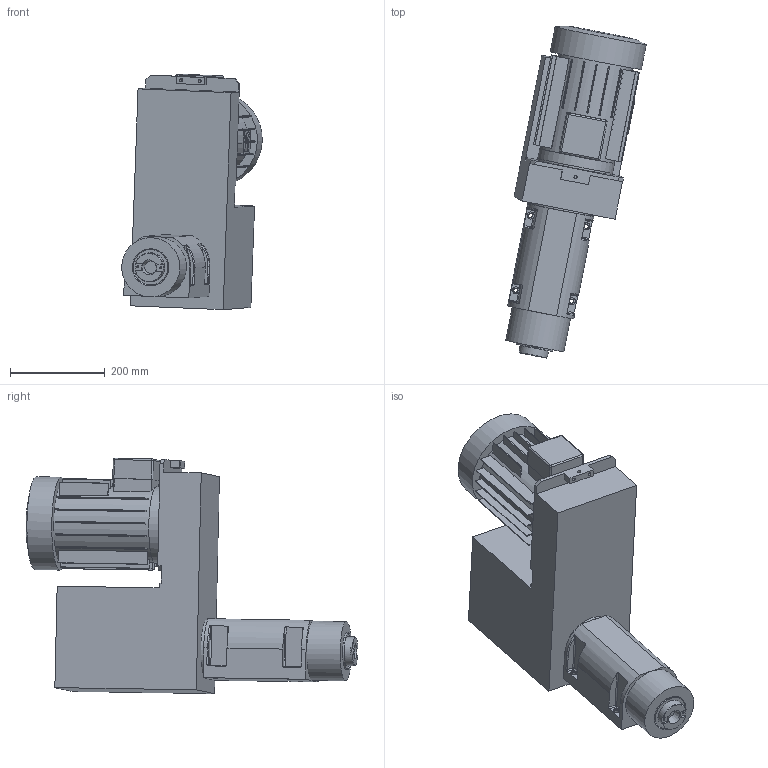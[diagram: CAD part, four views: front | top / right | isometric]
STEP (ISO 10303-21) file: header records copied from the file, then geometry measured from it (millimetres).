
FILE_DESCRIPTION((''),'2;1');
FILE_NAME('C:\VaultWork\Zeichnungen\Maßblätter\BF3b\BF00888-0 Maßblatt BF3b-SK30 Werkzeugspanner pneumatisch.stp','2009-04-06T08:47:23',('Test'),(''),'Autodesk Inventor 2008','Autodesk Inventor 2008','');
FILE_SCHEMA(('AUTOMOTIVE_DESIGN { 1 0 10303 214 1 1 1 1 }'));
Length unit declared in the file: millimetre
Products named in the file (1): BF00888-0 Maßblatt BF3b-SK30 Werkzeugspanner pneumatisch
Bounding box: 296.22 x 699.72 x 496.25 mm (x, y, z)
Volume: 28610177.2 mm3; surface area: 1019752.3 mm2
Topology: 1 solids, 6 shells, 323 faces, 786 edges, 507 vertices
Faces by surface type: plane 196, cylinder 91, bspline 18, cone 9, torus 5, sphere 4
Full cylindrical faces by diameter (mm): 4.134 x2, 6.647 x3, 8 x4, 9 x6, 15 x4, 31 x1, 61 x1, 76 x1, 78 x1, 100 x1, 125 x2, 158 x1, 160 x1, 161 x1, 196 x1
Entity records: 10886 total; most frequent: CARTESIAN_POINT 3446, DIRECTION 1564, ORIENTED_EDGE 1444, EDGE_CURVE 722, AXIS2_PLACEMENT_3D 563, VERTEX_POINT 482, VECTOR 438, LINE 438
